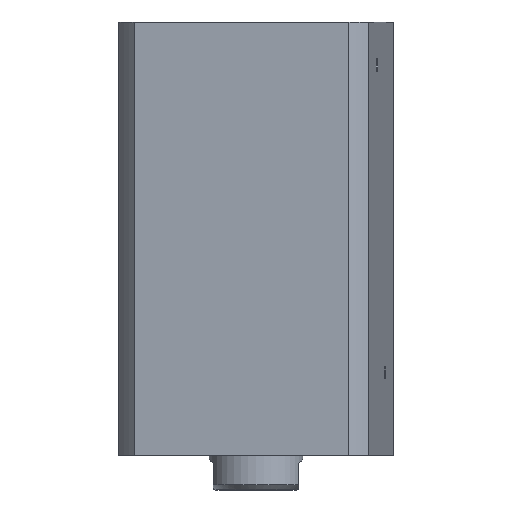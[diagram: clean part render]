
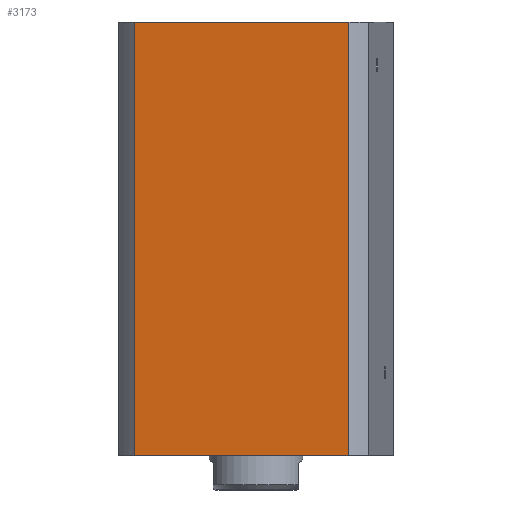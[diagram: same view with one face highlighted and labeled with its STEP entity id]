
A CAD part, front view. The second image highlights one B-rep face of the part: STEP entity #3173.
In plain terms, the highlighted planar face has unit normal (-0.115, -0.993, 0) as drawn and (0, 1, 0) by its records, which use the part's own axes.
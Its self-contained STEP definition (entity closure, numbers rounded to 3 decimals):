
#916 = ORIENTED_EDGE ( 'NONE', *, *, #3870, .F. ) ;
#1404 = VECTOR ( 'NONE', #16275, 1000. ) ;
#1576 = VECTOR ( 'NONE', #9973, 1000. ) ;
#1688 = ORIENTED_EDGE ( 'NONE', *, *, #14101, .F. ) ;
#1949 = CARTESIAN_POINT ( 'NONE',  ( -40.435, 47., 162. ) ) ;
#3173 = ADVANCED_FACE ( 'NONE', ( #3973 ), #3278, .F. ) ;
#3278 = PLANE ( 'NONE',  #12124 ) ;
#3870 = EDGE_CURVE ( 'NONE', #8400, #8137, #5920, .T. ) ;
#3973 = FACE_OUTER_BOUND ( 'NONE', #7769, .T. ) ;
#4644 = DIRECTION ( 'NONE',  ( 0., -1., 0. ) ) ;
#5099 = VERTEX_POINT ( 'NONE', #8209 ) ;
#5348 = CARTESIAN_POINT ( 'NONE',  ( -40.435, 47., -138. ) ) ;
#5920 = LINE ( 'NONE', #5348, #1404 ) ;
#5974 = CARTESIAN_POINT ( 'NONE',  ( -47., 47., 162. ) ) ;
#6136 = CARTESIAN_POINT ( 'NONE',  ( 40.435, 47., 162. ) ) ;
#7093 = ORIENTED_EDGE ( 'NONE', *, *, #16530, .T. ) ;
#7769 = EDGE_LOOP ( 'NONE', ( #1688, #7093, #916, #13926 ) ) ;
#8137 = VERTEX_POINT ( 'NONE', #15148 ) ;
#8209 = CARTESIAN_POINT ( 'NONE',  ( 40.435, 47., 0. ) ) ;
#8230 = VECTOR ( 'NONE', #14491, 1000. ) ;
#8400 = VERTEX_POINT ( 'NONE', #1949 ) ;
#8900 = CARTESIAN_POINT ( 'NONE',  ( 40.435, 47., -138. ) ) ;
#9973 = DIRECTION ( 'NONE',  ( -1., 0., 0. ) ) ;
#10269 = DIRECTION ( 'NONE',  ( 0., 0., 1. ) ) ;
#11027 = VECTOR ( 'NONE', #10269, 1000. ) ;
#11335 = CARTESIAN_POINT ( 'NONE',  ( -47., 47., 0. ) ) ;
#11455 = LINE ( 'NONE', #8900, #11027 ) ;
#12124 = AXIS2_PLACEMENT_3D ( 'NONE', #5974, #4644, #14249 ) ;
#12287 = LINE ( 'NONE', #13095, #8230 ) ;
#12508 = LINE ( 'NONE', #11335, #1576 ) ;
#13095 = CARTESIAN_POINT ( 'NONE',  ( -47., 47., 162. ) ) ;
#13926 = ORIENTED_EDGE ( 'NONE', *, *, #15569, .F. ) ;
#14101 = EDGE_CURVE ( 'NONE', #5099, #15851, #11455, .T. ) ;
#14249 = DIRECTION ( 'NONE',  ( 0., 0., -1. ) ) ;
#14491 = DIRECTION ( 'NONE',  ( -1., 0., 0. ) ) ;
#15148 = CARTESIAN_POINT ( 'NONE',  ( -40.435, 47., 0. ) ) ;
#15569 = EDGE_CURVE ( 'NONE', #15851, #8400, #12287, .T. ) ;
#15851 = VERTEX_POINT ( 'NONE', #6136 ) ;
#16275 = DIRECTION ( 'NONE',  ( 0., 0., -1. ) ) ;
#16530 = EDGE_CURVE ( 'NONE', #5099, #8137, #12508, .T. ) ;
